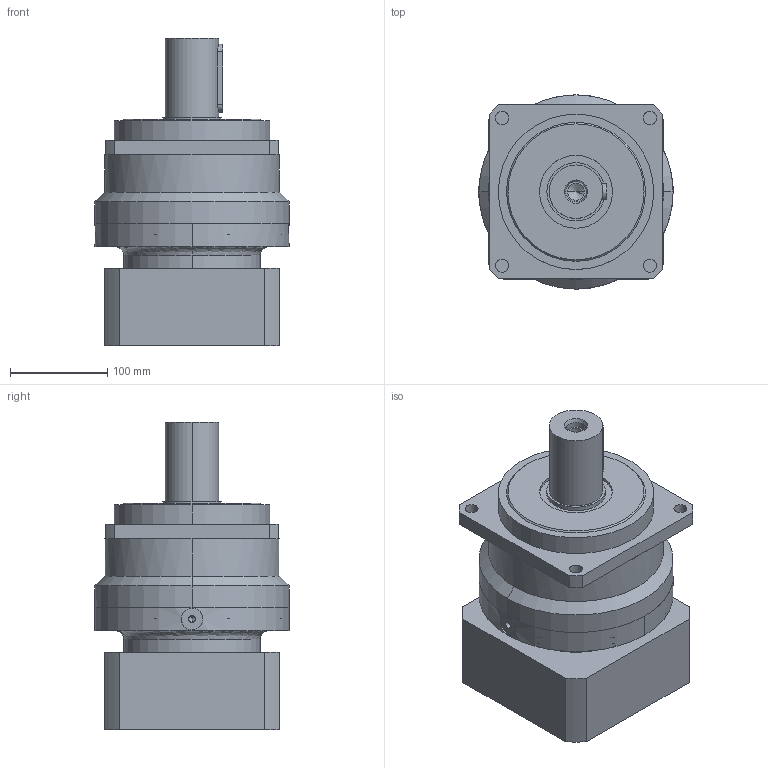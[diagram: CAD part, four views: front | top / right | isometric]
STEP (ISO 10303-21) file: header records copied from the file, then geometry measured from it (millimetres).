
FILE_DESCRIPTION (( 'STEP AP203' ), '1' );
FILE_NAME ('PLM180-L1-42-114.3-200.STEP', '2022-07-05T06:54:11', ( 'Windows User' ), ( 'P R C' ), 'SwSTEP 2.0', 'SolidWorks 2016', '' );
FILE_SCHEMA (( 'CONFIG_CONTROL_DESIGN' ));
Length unit declared in the file: millimetre
Products named in the file (6): PM180 奻裔啣_D1-55 D2-160 D5-215 D6-13.5 L1-82 L2-20 L3-15 L4-105 A1-179 S1-6 S2-70 S3-10 S4-42 B-16 H-59 C-M20 梓袧; PM180 下盖板-非标 内孔42+B12_D9-200 D3-35 B-10x8 标准; 囀鞠褒蹟佪-M10x35; 邧埴瑩 16x10x70; PM180 一级连接板 180匡 114.3x10 200xM12 80L 目录_D4-114.3 D7-200 D8-M12 A2-180 L5-10 L6-83(45+38) R-117 标准; PLM180-L1-42-114.3-200
Assembly tree (5 placements, depth 2):
  PLM180-L1-42-114.3-200
    PM180 奻裔啣_D1-55 D2-160 D5-215 D6-13.5 L1-82 L2-20 L3-15 L4-105 A1-179 S1-6 S2-70 S3-10 S4-42 B-16 H-59 C-M20 梓袧
    PM180 下盖板-非标 内孔42+B12_D9-200 D3-35 B-10x8 标准
    囀鞠褒蹟佪-M10x35
    邧埴瑩 16x10x70
    PM180 一级连接板 180匡 114.3x10 200xM12 80L 目录_D4-114.3 D7-200 D8-M12 A2-180 L5-10 L6-83(45+38) R-117 标准
Bounding box: 200 x 200 x 316.5 mm (x, y, z)
Volume: 5942331.9 mm3; surface area: 451136.4 mm2
Topology: 5 solids, 5 shells, 1035 faces, 2714 edges, 1771 vertices
Faces by surface type: plane 611, cylinder 212, bspline 160, cone 52
Entity records: 38650 total; most frequent: CARTESIAN_POINT 13374, ORIENTED_EDGE 5340, DIRECTION 4653, EDGE_CURVE 2670, VERTEX_POINT 1771, VECTOR 1677, LINE 1677, AXIS2_PLACEMENT_3D 1488
